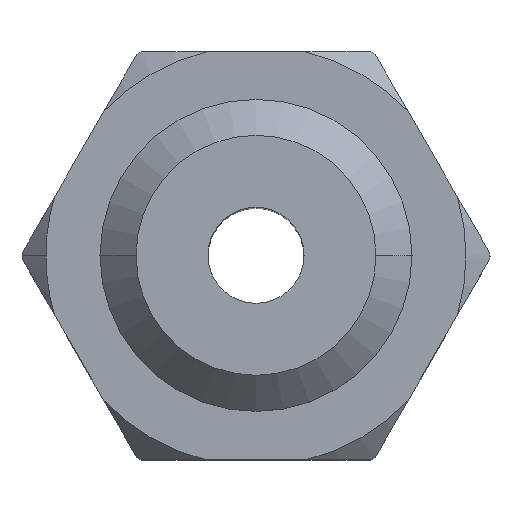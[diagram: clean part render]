
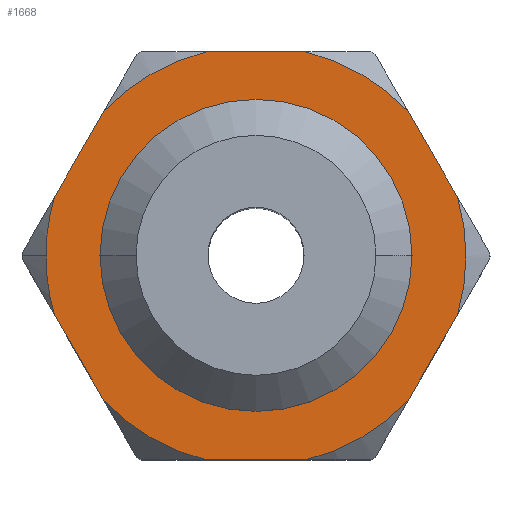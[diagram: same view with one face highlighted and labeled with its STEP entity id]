
A CAD part, top view. The second image highlights one B-rep face of the part: STEP entity #1668.
In plain terms, the highlighted planar face has unit normal (0, 0, 1).
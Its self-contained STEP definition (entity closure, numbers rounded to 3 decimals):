
#4 = DIRECTION ( 'NONE',  ( -1., 0., 0. ) ) ;
#23 = AXIS2_PLACEMENT_3D ( 'NONE', #564, #181, #1772 ) ;
#28 = CARTESIAN_POINT ( 'NONE',  ( 8.4, -2.452, 11.5 ) ) ;
#84 = VERTEX_POINT ( 'NONE', #1150 ) ;
#151 = EDGE_CURVE ( 'NONE', #1228, #1429, #975, .T. ) ;
#164 = AXIS2_PLACEMENT_3D ( 'NONE', #2557, #1151, #1958 ) ;
#181 = DIRECTION ( 'NONE',  ( 0., 0., -1. ) ) ;
#192 = PLANE ( 'NONE',  #23 ) ;
#195 = DIRECTION ( 'NONE',  ( 0., 0., -1. ) ) ;
#201 = DIRECTION ( 'NONE',  ( -1., 0., 0. ) ) ;
#202 = ORIENTED_EDGE ( 'NONE', *, *, #2003, .F. ) ;
#210 = DIRECTION ( 'NONE',  ( 1., 0., 0. ) ) ;
#246 = EDGE_CURVE ( 'NONE', #2152, #874, #2282, .T. ) ;
#249 = ORIENTED_EDGE ( 'NONE', *, *, #1298, .F. ) ;
#266 = VERTEX_POINT ( 'NONE', #2127 ) ;
#337 = EDGE_CURVE ( 'NONE', #526, #1251, #2293, .T. ) ;
#386 = VERTEX_POINT ( 'NONE', #1598 ) ;
#403 = EDGE_CURVE ( 'NONE', #874, #2152, #1127, .T. ) ;
#422 = ORIENTED_EDGE ( 'NONE', *, *, #1266, .F. ) ;
#443 = EDGE_CURVE ( 'NONE', #1620, #266, #1188, .T. ) ;
#465 = CARTESIAN_POINT ( 'NONE',  ( -8.4, -2.452, 11.5 ) ) ;
#498 = AXIS2_PLACEMENT_3D ( 'NONE', #2277, #1730, #884 ) ;
#511 = CIRCLE ( 'NONE', #2440, 8.75 ) ;
#524 = DIRECTION ( 'NONE',  ( -0.5, -0.866, 0. ) ) ;
#526 = VERTEX_POINT ( 'NONE', #2459 ) ;
#562 = CARTESIAN_POINT ( 'NONE',  ( -4.8, 0., 11.5 ) ) ;
#564 = CARTESIAN_POINT ( 'NONE',  ( 4.8, 0., 11.5 ) ) ;
#577 = CARTESIAN_POINT ( 'NONE',  ( 4.8, 8.5, 11.5 ) ) ;
#578 = CIRCLE ( 'NONE', #1134, 8.75 ) ;
#583 = CARTESIAN_POINT ( 'NONE',  ( 0., 0., 11.5 ) ) ;
#594 = VERTEX_POINT ( 'NONE', #870 ) ;
#606 = CARTESIAN_POINT ( 'NONE',  ( 4.8, -8.5, 11.5 ) ) ;
#670 = DIRECTION ( 'NONE',  ( -1., 0., 0. ) ) ;
#730 = ORIENTED_EDGE ( 'NONE', *, *, #443, .F. ) ;
#737 = LINE ( 'NONE', #606, #2600 ) ;
#738 = DIRECTION ( 'NONE',  ( -1., 0., 0. ) ) ;
#771 = DIRECTION ( 'NONE',  ( -1., 0., 0. ) ) ;
#787 = CARTESIAN_POINT ( 'NONE',  ( -2.077, 8.5, 11.5 ) ) ;
#790 = VECTOR ( 'NONE', #938, 1000. ) ;
#793 = EDGE_CURVE ( 'NONE', #2490, #1429, #846, .T. ) ;
#807 = EDGE_CURVE ( 'NONE', #526, #266, #511, .T. ) ;
#846 = CIRCLE ( 'NONE', #1525, 8.75 ) ;
#870 = CARTESIAN_POINT ( 'NONE',  ( 2.077, -8.5, 11.5 ) ) ;
#874 = VERTEX_POINT ( 'NONE', #1912 ) ;
#884 = DIRECTION ( 'NONE',  ( -1., 0., 0. ) ) ;
#890 = ORIENTED_EDGE ( 'NONE', *, *, #2498, .T. ) ;
#908 = ORIENTED_EDGE ( 'NONE', *, *, #1061, .T. ) ;
#910 = EDGE_LOOP ( 'NONE', ( #1224, #2005 ) ) ;
#932 = CARTESIAN_POINT ( 'NONE',  ( -6.323, -6.048, 11.5 ) ) ;
#938 = DIRECTION ( 'NONE',  ( 0.5, -0.866, 0. ) ) ;
#975 = LINE ( 'NONE', #1370, #2226 ) ;
#1013 = CARTESIAN_POINT ( 'NONE',  ( 0., 0., 11.5 ) ) ;
#1015 = CARTESIAN_POINT ( 'NONE',  ( 0., 0., 11.5 ) ) ;
#1041 = CARTESIAN_POINT ( 'NONE',  ( 0., 0., 11.5 ) ) ;
#1061 = EDGE_CURVE ( 'NONE', #1620, #84, #2530, .T. ) ;
#1127 = CIRCLE ( 'NONE', #2592, 4.8 ) ;
#1134 = AXIS2_PLACEMENT_3D ( 'NONE', #1015, #2453, #2258 ) ;
#1147 = AXIS2_PLACEMENT_3D ( 'NONE', #1741, #2537, #738 ) ;
#1150 = CARTESIAN_POINT ( 'NONE',  ( -6.323, 6.048, 11.5 ) ) ;
#1151 = DIRECTION ( 'NONE',  ( 0., 0., 1. ) ) ;
#1154 = EDGE_CURVE ( 'NONE', #386, #2490, #1473, .T. ) ;
#1188 = LINE ( 'NONE', #577, #1676 ) ;
#1189 = DIRECTION ( 'NONE',  ( 0.5, 0.866, 0. ) ) ;
#1218 = DIRECTION ( 'NONE',  ( 0., 0., 1. ) ) ;
#1224 = ORIENTED_EDGE ( 'NONE', *, *, #246, .T. ) ;
#1228 = VERTEX_POINT ( 'NONE', #932 ) ;
#1251 = VERTEX_POINT ( 'NONE', #2168 ) ;
#1266 = EDGE_CURVE ( 'NONE', #594, #2407, #737, .T. ) ;
#1275 = CARTESIAN_POINT ( 'NONE',  ( 0., 0., 11.5 ) ) ;
#1298 = EDGE_CURVE ( 'NONE', #386, #84, #1587, .T. ) ;
#1370 = CARTESIAN_POINT ( 'NONE',  ( -6.161, -6.328, 11.5 ) ) ;
#1390 = VECTOR ( 'NONE', #1189, 1000. ) ;
#1402 = DIRECTION ( 'NONE',  ( 0., 0., 1. ) ) ;
#1429 = VERTEX_POINT ( 'NONE', #465 ) ;
#1473 = CIRCLE ( 'NONE', #2020, 8.75 ) ;
#1511 = CIRCLE ( 'NONE', #498, 8.75 ) ;
#1512 = CARTESIAN_POINT ( 'NONE',  ( 6.323, -6.048, 11.5 ) ) ;
#1525 = AXIS2_PLACEMENT_3D ( 'NONE', #1041, #1402, #670 ) ;
#1570 = DIRECTION ( 'NONE',  ( -0.5, 0.866, 0. ) ) ;
#1587 = LINE ( 'NONE', #1825, #1390 ) ;
#1598 = CARTESIAN_POINT ( 'NONE',  ( -8.4, 2.452, 11.5 ) ) ;
#1620 = VERTEX_POINT ( 'NONE', #787 ) ;
#1646 = AXIS2_PLACEMENT_3D ( 'NONE', #583, #2375, #4 ) ;
#1661 = ORIENTED_EDGE ( 'NONE', *, *, #793, .T. ) ;
#1668 = ADVANCED_FACE ( 'NONE', ( #2391, #2367 ), #192, .F. ) ;
#1676 = VECTOR ( 'NONE', #210, 1000. ) ;
#1724 = CARTESIAN_POINT ( 'NONE',  ( -2.077, -8.5, 11.5 ) ) ;
#1730 = DIRECTION ( 'NONE',  ( 0., 0., 1. ) ) ;
#1741 = CARTESIAN_POINT ( 'NONE',  ( 0., 0., 11.5 ) ) ;
#1765 = VECTOR ( 'NONE', #524, 1000. ) ;
#1772 = DIRECTION ( 'NONE',  ( -1., 0., 0. ) ) ;
#1812 = CIRCLE ( 'NONE', #164, 8.75 ) ;
#1825 = CARTESIAN_POINT ( 'NONE',  ( -6.161, 6.328, 11.5 ) ) ;
#1827 = DIRECTION ( 'NONE',  ( -1., 0., 0. ) ) ;
#1869 = ORIENTED_EDGE ( 'NONE', *, *, #1154, .T. ) ;
#1900 = LINE ( 'NONE', #2527, #1765 ) ;
#1908 = ORIENTED_EDGE ( 'NONE', *, *, #151, .F. ) ;
#1912 = CARTESIAN_POINT ( 'NONE',  ( 4.8, 0., 11.5 ) ) ;
#1919 = CARTESIAN_POINT ( 'NONE',  ( 8.561, 2.172, 11.5 ) ) ;
#1935 = ORIENTED_EDGE ( 'NONE', *, *, #337, .F. ) ;
#1958 = DIRECTION ( 'NONE',  ( -1., 0., 0. ) ) ;
#1996 = EDGE_CURVE ( 'NONE', #1228, #2407, #1511, .T. ) ;
#2003 = EDGE_CURVE ( 'NONE', #2299, #2378, #1900, .T. ) ;
#2005 = ORIENTED_EDGE ( 'NONE', *, *, #403, .T. ) ;
#2020 = AXIS2_PLACEMENT_3D ( 'NONE', #1013, #1218, #1827 ) ;
#2082 = DIRECTION ( 'NONE',  ( 0., 0., 1. ) ) ;
#2105 = ORIENTED_EDGE ( 'NONE', *, *, #807, .T. ) ;
#2127 = CARTESIAN_POINT ( 'NONE',  ( 2.077, 8.5, 11.5 ) ) ;
#2152 = VERTEX_POINT ( 'NONE', #562 ) ;
#2168 = CARTESIAN_POINT ( 'NONE',  ( 8.4, 2.452, 11.5 ) ) ;
#2187 = ORIENTED_EDGE ( 'NONE', *, *, #1996, .T. ) ;
#2197 = EDGE_CURVE ( 'NONE', #594, #2378, #578, .T. ) ;
#2226 = VECTOR ( 'NONE', #1570, 1000. ) ;
#2256 = ORIENTED_EDGE ( 'NONE', *, *, #2197, .T. ) ;
#2258 = DIRECTION ( 'NONE',  ( -1., 0., 0. ) ) ;
#2277 = CARTESIAN_POINT ( 'NONE',  ( 0., 0., 11.5 ) ) ;
#2282 = CIRCLE ( 'NONE', #1147, 4.8 ) ;
#2289 = DIRECTION ( 'NONE',  ( -1., 0., 0. ) ) ;
#2293 = LINE ( 'NONE', #1919, #790 ) ;
#2299 = VERTEX_POINT ( 'NONE', #28 ) ;
#2335 = CARTESIAN_POINT ( 'NONE',  ( -8.75, 0., 11.5 ) ) ;
#2367 = FACE_OUTER_BOUND ( 'NONE', #2441, .T. ) ;
#2375 = DIRECTION ( 'NONE',  ( 0., 0., 1. ) ) ;
#2378 = VERTEX_POINT ( 'NONE', #1512 ) ;
#2391 = FACE_BOUND ( 'NONE', #910, .T. ) ;
#2406 = CARTESIAN_POINT ( 'NONE',  ( 0., 0., 11.5 ) ) ;
#2407 = VERTEX_POINT ( 'NONE', #1724 ) ;
#2440 = AXIS2_PLACEMENT_3D ( 'NONE', #1275, #2082, #2289 ) ;
#2441 = EDGE_LOOP ( 'NONE', ( #1935, #2105, #730, #908, #249, #1869, #1661, #1908, #2187, #422, #2256, #202, #890 ) ) ;
#2453 = DIRECTION ( 'NONE',  ( 0., 0., 1. ) ) ;
#2459 = CARTESIAN_POINT ( 'NONE',  ( 6.323, 6.048, 11.5 ) ) ;
#2490 = VERTEX_POINT ( 'NONE', #2335 ) ;
#2498 = EDGE_CURVE ( 'NONE', #2299, #1251, #1812, .T. ) ;
#2527 = CARTESIAN_POINT ( 'NONE',  ( 8.561, -2.172, 11.5 ) ) ;
#2530 = CIRCLE ( 'NONE', #1646, 8.75 ) ;
#2537 = DIRECTION ( 'NONE',  ( 0., 0., -1. ) ) ;
#2557 = CARTESIAN_POINT ( 'NONE',  ( 0., 0., 11.5 ) ) ;
#2592 = AXIS2_PLACEMENT_3D ( 'NONE', #2406, #195, #771 ) ;
#2600 = VECTOR ( 'NONE', #201, 1000. ) ;
